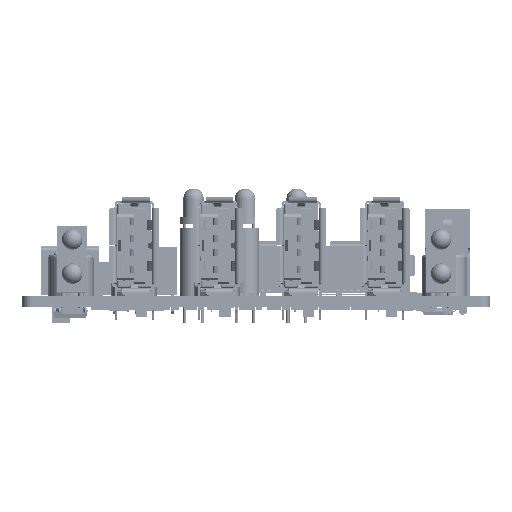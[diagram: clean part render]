
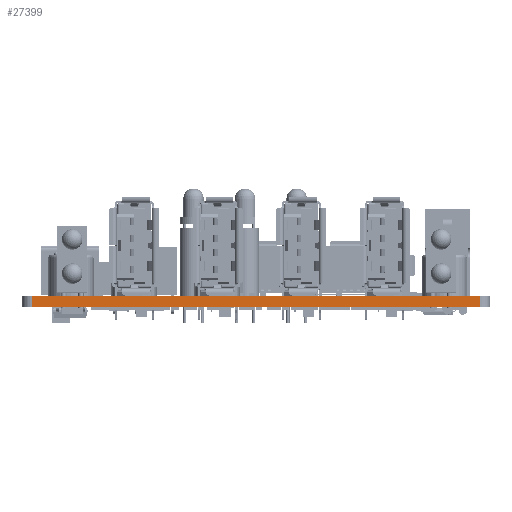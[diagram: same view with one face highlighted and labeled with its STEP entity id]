
A CAD part, top view. The second image highlights one B-rep face of the part: STEP entity #27399.
In plain terms, the highlighted planar face has unit normal (0, 0, 1) as drawn and (0, -1, 0) by its records, which use the part's own axes.
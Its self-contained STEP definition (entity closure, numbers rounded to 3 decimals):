
#2798=DIRECTION('',(1.,0.,0.));
#2799=VECTOR('',#2798,65.374);
#2800=CARTESIAN_POINT('',(1.526,0.,-1.598));
#2801=LINE('',#2800,#2799);
#4928=DIRECTION('',(1.,0.,0.));
#4929=VECTOR('',#4928,65.374);
#4930=CARTESIAN_POINT('',(1.526,0.,0.));
#4931=LINE('',#4930,#4929);
#8866=DIRECTION('',(0.,0.,-1.));
#8867=VECTOR('',#8866,1.598);
#8868=CARTESIAN_POINT('',(1.526,0.,0.));
#8869=LINE('',#8868,#8867);
#9104=DIRECTION('',(0.,0.,-1.));
#9105=VECTOR('',#9104,1.598);
#9106=CARTESIAN_POINT('',(66.9,0.,0.));
#9107=LINE('',#9106,#9105);
#19795=CARTESIAN_POINT('',(1.526,0.,0.));
#19796=CARTESIAN_POINT('',(1.526,0.,-1.598));
#19797=VERTEX_POINT('',#19795);
#19798=VERTEX_POINT('',#19796);
#19799=CARTESIAN_POINT('',(66.9,0.,0.));
#19800=CARTESIAN_POINT('',(66.9,0.,-1.598));
#19801=VERTEX_POINT('',#19799);
#19802=VERTEX_POINT('',#19800);
#27386=CARTESIAN_POINT('',(66.9,0.,0.));
#27387=DIRECTION('',(0.,1.,0.));
#27388=DIRECTION('',(-1.,0.,0.));
#27389=AXIS2_PLACEMENT_3D('',#27386,#27387,#27388);
#27390=PLANE('',#27389);
#27392=ORIENTED_EDGE('',*,*,#27391,.F.);
#27393=ORIENTED_EDGE('',*,*,#21143,.T.);
#27395=ORIENTED_EDGE('',*,*,#27394,.T.);
#27396=ORIENTED_EDGE('',*,*,#19947,.F.);
#27397=EDGE_LOOP('',(#27392,#27393,#27395,#27396));
#27398=FACE_OUTER_BOUND('',#27397,.F.);
#27399=ADVANCED_FACE('',(#27398),#27390,.F.);
#19947=EDGE_CURVE('',#19798,#19802,#2801,.T.);
#21143=EDGE_CURVE('',#19797,#19801,#4931,.T.);
#27391=EDGE_CURVE('',#19797,#19798,#8869,.T.);
#27394=EDGE_CURVE('',#19801,#19802,#9107,.T.);
